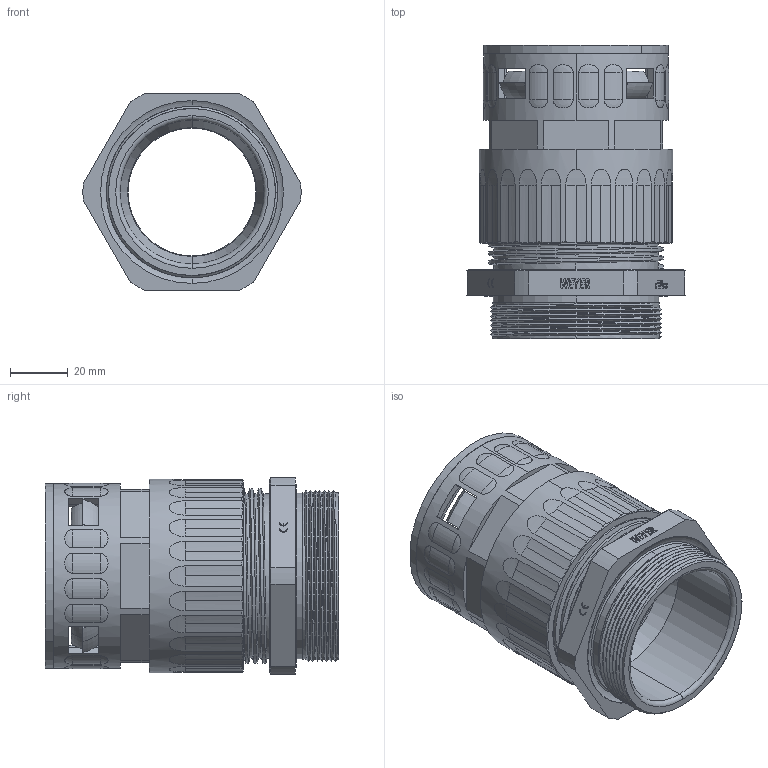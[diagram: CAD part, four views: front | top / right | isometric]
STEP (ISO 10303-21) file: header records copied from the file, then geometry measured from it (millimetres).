
FILE_DESCRIPTION (( 'STEP AP203' ), '1' );
FILE_NAME ('WQGZ-P48-AD54.5.STEP', '2021-04-12T02:34:34', ( '' ), ( '' ), 'SwSTEP 2.0', 'SolidWorks 2016', '' );
FILE_SCHEMA (( 'CONFIG_CONTROL_DESIGN' ));
Length unit declared in the file: millimetre
Products named in the file (8): WQG2-Tr60-AD54.5; NSK-AD54.5; GFD-AD54.5; WGQ2-Tr60-AD54.5; CTH-P48; HSK-P48-01; 蚾饜极3; WQGZ-P48-AD54.5
Assembly tree (7 placements, depth 3):
  WQGZ-P48-AD54.5
    WQG2-Tr60-AD54.5
      WGQ2-Tr60-AD54.5
      GFD-AD54.5
      NSK-AD54.5
    蚾饜极3
      HSK-P48-01
      CTH-P48
Bounding box: 75.48 x 101.6 x 68 mm (x, y, z)
Volume: 121999 mm3; surface area: 83547.3 mm2
Topology: 5 solids, 5 shells, 939 faces, 2652 edges, 1709 vertices
Faces by surface type: plane 437, cylinder 254, cone 69, torus 63, bspline 60, sphere 56
Entity records: 38722 total; most frequent: CARTESIAN_POINT 14517, ORIENTED_EDGE 5128, DIRECTION 4641, EDGE_CURVE 2564, VERTEX_POINT 1677, AXIS2_PLACEMENT_3D 1672, LINE 1297, VECTOR 1297
